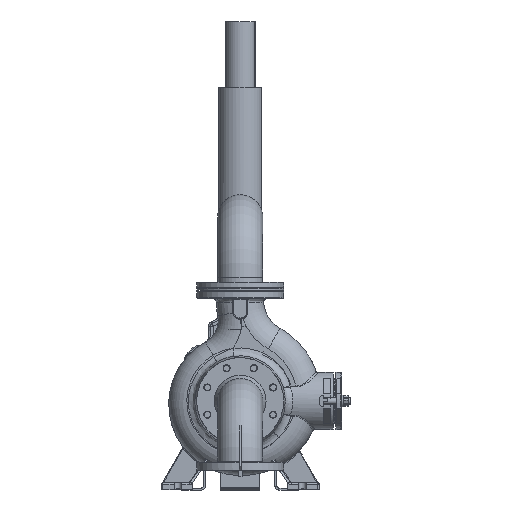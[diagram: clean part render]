
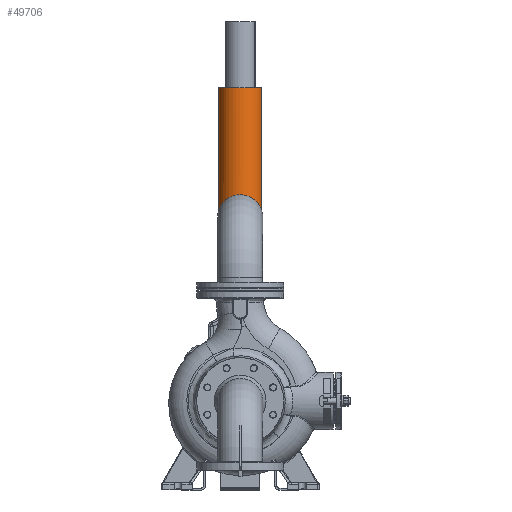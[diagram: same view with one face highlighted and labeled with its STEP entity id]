
A CAD part, front view. The second image highlights one B-rep face of the part: STEP entity #49706.
In plain terms, the highlighted cylindrical face has radius 55 mm (diameter 110 mm), a full revolution.
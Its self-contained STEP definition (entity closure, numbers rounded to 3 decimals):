
#7481=FACE_OUTER_BOUND('',#10808,.T.);
#10808=EDGE_LOOP('',(#44507,#44508,#44509,#44510,#44511,#44512,#44513,#44514));
#12492=B_SPLINE_CURVE_WITH_KNOTS('',3,(#126830,#126831,#126832,#126833,
#126834,#126835,#126836,#126837,#126838,#126839),.UNSPECIFIED.,.F.,.F.,
(4,2,2,2,4),(-1.51,-1.133,-0.755,-0.378,
0.),.UNSPECIFIED.);
#12493=B_SPLINE_CURVE_WITH_KNOTS('',3,(#126840,#126841,#126842,#126843,
#126844,#126845,#126846,#126847,#126848,#126849),.UNSPECIFIED.,.F.,.F.,
(4,2,2,2,4),(-3.021,-2.643,-2.266,-1.888,
-1.51),.UNSPECIFIED.);
#14562=LINE('',#126812,#16886);
#14567=LINE('',#126865,#16891);
#14568=LINE('',#126872,#16892);
#16886=VECTOR('',#68546,10.);
#16891=VECTOR('',#68555,10.);
#16892=VECTOR('',#68566,55.);
#19917=CIRCLE('',#55838,55.);
#19919=CIRCLE('',#55841,55.);
#24319=VERTEX_POINT('',#126809);
#24320=VERTEX_POINT('',#126811);
#24323=VERTEX_POINT('',#126827);
#24324=VERTEX_POINT('',#126829);
#24326=VERTEX_POINT('',#126863);
#24327=VERTEX_POINT('',#126870);
#31093=EDGE_CURVE('',#24320,#24319,#14562,.T.);
#31097=EDGE_CURVE('',#24324,#24323,#12492,.T.);
#31098=EDGE_CURVE('',#24319,#24324,#12493,.T.);
#31102=EDGE_CURVE('',#24323,#24326,#14567,.T.);
#31103=EDGE_CURVE('',#24320,#24326,#19917,.T.);
#31105=EDGE_CURVE('',#24327,#24327,#19919,.T.);
#31106=EDGE_CURVE('',#24327,#24324,#14568,.T.);
#44507=ORIENTED_EDGE('',*,*,#31105,.T.);
#44508=ORIENTED_EDGE('',*,*,#31106,.T.);
#44509=ORIENTED_EDGE('',*,*,#31097,.T.);
#44510=ORIENTED_EDGE('',*,*,#31102,.T.);
#44511=ORIENTED_EDGE('',*,*,#31103,.F.);
#44512=ORIENTED_EDGE('',*,*,#31093,.T.);
#44513=ORIENTED_EDGE('',*,*,#31098,.T.);
#44514=ORIENTED_EDGE('',*,*,#31106,.F.);
#46994=CYLINDRICAL_SURFACE('',#55840,55.);
#49706=ADVANCED_FACE('',(#7481),#46994,.T.);
#55838=AXIS2_PLACEMENT_3D('',#126867,#68558,#68559);
#55840=AXIS2_PLACEMENT_3D('',#126869,#68562,#68563);
#55841=AXIS2_PLACEMENT_3D('',#126871,#68564,#68565);
#68546=DIRECTION('',(0.,0.,1.));
#68555=DIRECTION('',(0.,0.,-1.));
#68558=DIRECTION('center_axis',(0.,0.,-1.));
#68559=DIRECTION('ref_axis',(-1.,0.,0.));
#68562=DIRECTION('center_axis',(0.,0.,1.));
#68563=DIRECTION('ref_axis',(-1.,0.,0.));
#68564=DIRECTION('center_axis',(0.,0.,-1.));
#68565=DIRECTION('ref_axis',(-1.,0.,0.));
#68566=DIRECTION('',(0.,0.,-1.));
#126809=CARTESIAN_POINT('',(54.083,-10.,20.));
#126811=CARTESIAN_POINT('',(54.083,-10.,0.));
#126812=CARTESIAN_POINT('',(54.083,-10.,0.));
#126827=CARTESIAN_POINT('',(54.083,10.,20.));
#126829=CARTESIAN_POINT('',(55.,0.,30.));
#126830=CARTESIAN_POINT('Ctrl Pts',(55.,0.,
30.));
#126831=CARTESIAN_POINT('Ctrl Pts',(55.,1.259,30.));
#126832=CARTESIAN_POINT('Ctrl Pts',(54.952,2.599,29.748));
#126833=CARTESIAN_POINT('Ctrl Pts',(54.78,5.062,28.726));
#126834=CARTESIAN_POINT('Ctrl Pts',(54.658,6.185,27.957));
#126835=CARTESIAN_POINT('Ctrl Pts',(54.429,7.957,26.185));
#126836=CARTESIAN_POINT('Ctrl Pts',(54.306,8.726,25.062));
#126837=CARTESIAN_POINT('Ctrl Pts',(54.132,9.748,22.599));
#126838=CARTESIAN_POINT('Ctrl Pts',(54.083,10.,21.259));
#126839=CARTESIAN_POINT('Ctrl Pts',(54.083,10.,20.));
#126840=CARTESIAN_POINT('Ctrl Pts',(54.083,-10.,20.));
#126841=CARTESIAN_POINT('Ctrl Pts',(54.083,-10.,21.259));
#126842=CARTESIAN_POINT('Ctrl Pts',(54.132,-9.748,
22.599));
#126843=CARTESIAN_POINT('Ctrl Pts',(54.306,-8.726,
25.062));
#126844=CARTESIAN_POINT('Ctrl Pts',(54.429,-7.957,
26.185));
#126845=CARTESIAN_POINT('Ctrl Pts',(54.658,-6.185,
27.957));
#126846=CARTESIAN_POINT('Ctrl Pts',(54.78,-5.062,
28.726));
#126847=CARTESIAN_POINT('Ctrl Pts',(54.952,-2.599,
29.748));
#126848=CARTESIAN_POINT('Ctrl Pts',(55.,-1.259,
30.));
#126849=CARTESIAN_POINT('Ctrl Pts',(55.,0.,
30.));
#126863=CARTESIAN_POINT('',(54.083,10.,0.));
#126865=CARTESIAN_POINT('',(54.083,10.,0.));
#126867=CARTESIAN_POINT('Origin',(0.,0.,
0.));
#126869=CARTESIAN_POINT('Origin',(0.,0.,
0.));
#126870=CARTESIAN_POINT('',(55.,0.,600.));
#126871=CARTESIAN_POINT('Origin',(0.,0.,
600.));
#126872=CARTESIAN_POINT('',(55.,0.,0.));
